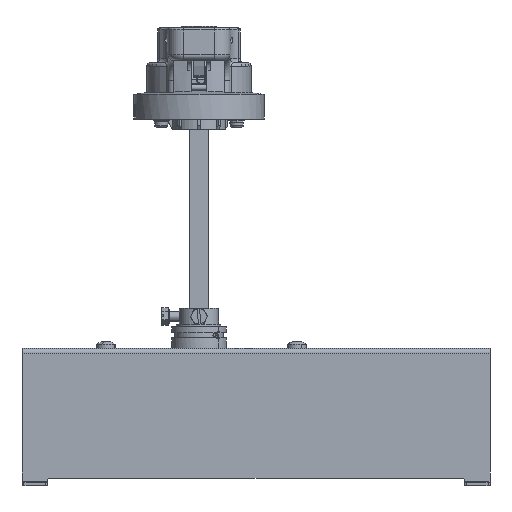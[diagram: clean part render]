
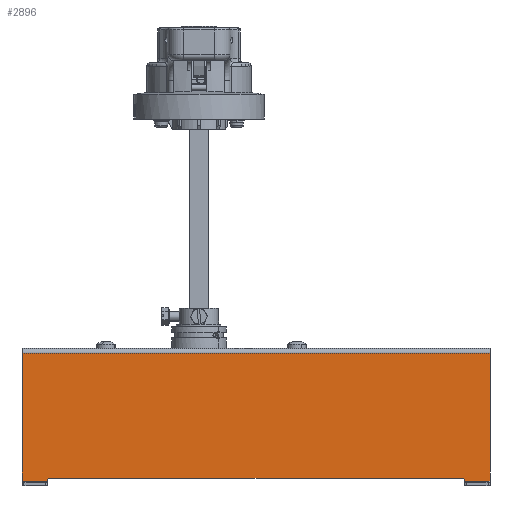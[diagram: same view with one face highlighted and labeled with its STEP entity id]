
A CAD part, front view. The second image highlights one B-rep face of the part: STEP entity #2896.
In plain terms, the highlighted planar face has unit normal (0, -1, 0).
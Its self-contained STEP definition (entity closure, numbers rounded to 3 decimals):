
#1863=PLANE('',#31021);
#2896=ADVANCED_FACE('',(#5064),#1863,.F.);
#5064=FACE_OUTER_BOUND('',#6716,.T.);
#6716=EDGE_LOOP('',(#15072,#15073,#15074,#15075,#15076,#15077,#15078,#15079,
#15080,#15081));
#8822=LINE('',#43739,#11351);
#8828=LINE('',#43752,#11357);
#8850=LINE('',#43804,#11379);
#8914=LINE('',#44334,#11443);
#8920=LINE('',#44345,#11449);
#8921=LINE('',#44349,#11450);
#8922=LINE('',#44352,#11451);
#8923=LINE('',#44353,#11452);
#11351=VECTOR('',#34509,1.);
#11357=VECTOR('',#34519,1.);
#11379=VECTOR('',#34557,1.);
#11443=VECTOR('',#34715,1.);
#11449=VECTOR('',#34723,1.);
#11450=VECTOR('',#34728,1.);
#11451=VECTOR('',#34731,1.);
#11452=VECTOR('',#34732,1.);
#15072=ORIENTED_EDGE('',*,*,#25785,.T.);
#15073=ORIENTED_EDGE('',*,*,#25932,.T.);
#15074=ORIENTED_EDGE('',*,*,#25933,.T.);
#15075=ORIENTED_EDGE('',*,*,#25934,.T.);
#15076=ORIENTED_EDGE('',*,*,#25791,.T.);
#15077=ORIENTED_EDGE('',*,*,#25815,.F.);
#15078=ORIENTED_EDGE('',*,*,#25931,.T.);
#15079=ORIENTED_EDGE('',*,*,#25935,.F.);
#15080=ORIENTED_EDGE('',*,*,#25925,.T.);
#15081=ORIENTED_EDGE('',*,*,#25936,.F.);
#22706=VERTEX_POINT('',#43738);
#22707=VERTEX_POINT('',#43740);
#22712=VERTEX_POINT('',#43753);
#22713=VERTEX_POINT('',#43754);
#22734=VERTEX_POINT('',#43805);
#22816=VERTEX_POINT('',#44332);
#22818=VERTEX_POINT('',#44335);
#22821=VERTEX_POINT('',#44344);
#22822=VERTEX_POINT('',#44348);
#22823=VERTEX_POINT('',#44350);
#25785=EDGE_CURVE('',#22707,#22706,#8822,.T.);
#25791=EDGE_CURVE('',#22712,#22713,#8828,.T.);
#25815=EDGE_CURVE('',#22734,#22713,#8850,.T.);
#25925=EDGE_CURVE('',#22818,#22816,#8914,.T.);
#25931=EDGE_CURVE('',#22734,#22821,#8920,.T.);
#25932=EDGE_CURVE('',#22706,#22822,#29595,.T.);
#25933=EDGE_CURVE('',#22822,#22823,#8921,.T.);
#25934=EDGE_CURVE('',#22823,#22712,#29596,.T.);
#25935=EDGE_CURVE('',#22818,#22821,#8922,.T.);
#25936=EDGE_CURVE('',#22707,#22816,#8923,.T.);
#29595=CIRCLE('',#31019,1.);
#29596=CIRCLE('',#31020,1.);
#31019=AXIS2_PLACEMENT_3D('',#44347,#34726,#34727);
#31020=AXIS2_PLACEMENT_3D('',#44351,#34729,#34730);
#31021=AXIS2_PLACEMENT_3D('',#44354,#34733,#34734);
#34509=DIRECTION('',(0.,0.,1.));
#34519=DIRECTION('',(0.,0.,-1.));
#34557=DIRECTION('',(-1.,0.,0.));
#34715=DIRECTION('',(0.,0.,-1.));
#34723=DIRECTION('',(0.,0.,1.));
#34726=DIRECTION('',(0.,1.,0.));
#34727=DIRECTION('',(0.,0.,1.));
#34728=DIRECTION('',(1.,0.,0.));
#34729=DIRECTION('',(0.,1.,0.));
#34730=DIRECTION('',(0.,0.,1.));
#34731=DIRECTION('',(1.,0.,0.));
#34732=DIRECTION('',(-1.,0.,0.));
#34733=DIRECTION('',(0.,1.,0.));
#34734=DIRECTION('',(0.,0.,-1.));
#43738=CARTESIAN_POINT('',(-106.,-93.5,-65.));
#43739=CARTESIAN_POINT('',(-106.,-93.5,0.));
#43740=CARTESIAN_POINT('',(-106.,-93.5,-65.5));
#43752=CARTESIAN_POINT('',(106.,-93.5,0.));
#43753=CARTESIAN_POINT('',(106.,-93.5,-65.));
#43754=CARTESIAN_POINT('',(106.,-93.5,-65.5));
#43804=CARTESIAN_POINT('',(119.,-93.5,-65.5));
#43805=CARTESIAN_POINT('',(119.,-93.5,-65.5));
#44332=CARTESIAN_POINT('',(-119.,-93.5,-65.5));
#44334=CARTESIAN_POINT('',(-119.,-93.5,0.));
#44335=CARTESIAN_POINT('',(-119.,-93.5,-0.5));
#44344=CARTESIAN_POINT('',(119.,-93.5,-0.5));
#44345=CARTESIAN_POINT('',(119.,-93.5,0.));
#44347=CARTESIAN_POINT('',(-105.,-93.5,-65.));
#44348=CARTESIAN_POINT('',(-105.,-93.5,-64.));
#44349=CARTESIAN_POINT('',(0.,-93.5,-64.));
#44350=CARTESIAN_POINT('',(105.,-93.5,-64.));
#44351=CARTESIAN_POINT('',(105.,-93.5,-65.));
#44352=CARTESIAN_POINT('',(119.,-93.5,-0.5));
#44353=CARTESIAN_POINT('',(119.,-93.5,-65.5));
#44354=CARTESIAN_POINT('',(0.,-93.5,0.));
